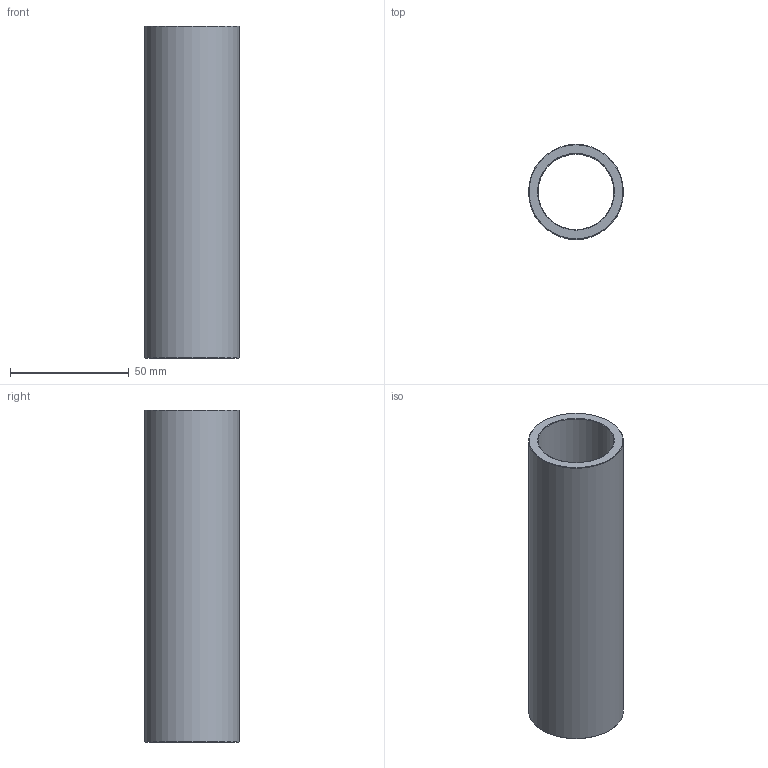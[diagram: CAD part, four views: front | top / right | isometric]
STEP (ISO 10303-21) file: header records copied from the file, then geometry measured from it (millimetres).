
FILE_DESCRIPTION(('STEP AP203'),'1');
FILE_NAME('C:/Users/Rodrigo/Desktop/GA4.032.140-1.step','2016-11-07T17:23:00',(' '),(' '),'Spatial InterOp 3D',' ',' ');
FILE_SCHEMA(('CONFIG_CONTROL_DESIGN'));
Length unit declared in the file: millimetre
Products named in the file (1): 1
Bounding box: 40 x 40 x 140 mm (x, y, z)
Volume: 63325.5 mm3; surface area: 32519 mm2
Topology: 1 solids, 1 shells, 8 faces, 14 edges, 8 vertices
Faces by surface type: cone 4, cylinder 2, plane 2
Full cylindrical faces by diameter (mm): 32 x1, 40 x1
Entity records: 212 total; most frequent: DIRECTION 34, CARTESIAN_POINT 25, AXIS2_PLACEMENT_3D 17, EDGE_LOOP 16, ORIENTED_EDGE 16, FACE_OUTER_BOUND 10, ADVANCED_FACE 8, EDGE_CURVE 8
